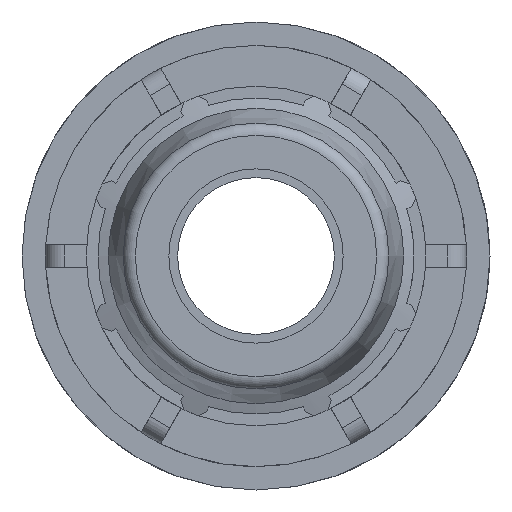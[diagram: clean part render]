
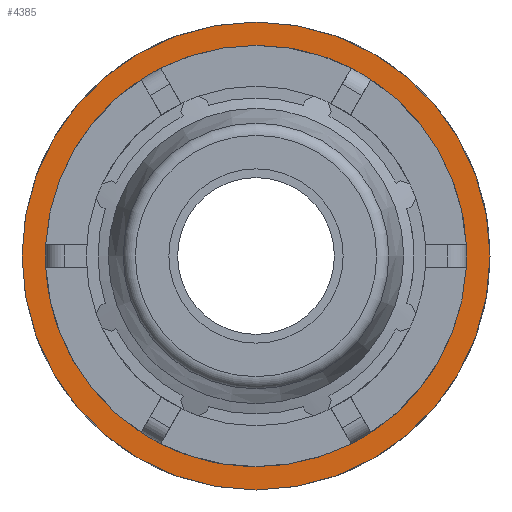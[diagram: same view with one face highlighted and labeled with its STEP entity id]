
A CAD part, left-side view. The second image highlights one B-rep face of the part: STEP entity #4385.
In plain terms, the highlighted planar face has unit normal (-1, 0, 0).
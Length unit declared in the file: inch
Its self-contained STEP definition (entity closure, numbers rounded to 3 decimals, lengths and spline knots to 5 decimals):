
#48=FACE_BOUND('',#578,.T.);
#358=FACE_OUTER_BOUND('',#577,.T.);
#577=EDGE_LOOP('',(#3585,#3586));
#578=EDGE_LOOP('',(#3587,#3588));
#655=CIRCLE('',#4516,2.225);
#656=CIRCLE('',#4517,2.225);
#793=CIRCLE('',#4797,1.78);
#794=CIRCLE('',#4798,1.78);
#1651=VERTEX_POINT('',#6353);
#1652=VERTEX_POINT('',#6355);
#1926=VERTEX_POINT('',#7506);
#1927=VERTEX_POINT('',#7507);
#2104=EDGE_CURVE('',#1651,#1652,#655,.T.);
#2105=EDGE_CURVE('',#1652,#1651,#656,.T.);
#2530=EDGE_CURVE('',#1926,#1927,#793,.T.);
#2531=EDGE_CURVE('',#1927,#1926,#794,.T.);
#3585=ORIENTED_EDGE('',*,*,#2105,.F.);
#3586=ORIENTED_EDGE('',*,*,#2104,.F.);
#3587=ORIENTED_EDGE('',*,*,#2530,.T.);
#3588=ORIENTED_EDGE('',*,*,#2531,.T.);
#3972=PLANE('',#4796);
#4385=ADVANCED_FACE('',(#358,#48),#3972,.T.);
#4516=AXIS2_PLACEMENT_3D('',#6356,#5105,#5106);
#4517=AXIS2_PLACEMENT_3D('',#6357,#5107,#5108);
#4796=AXIS2_PLACEMENT_3D('',#7505,#5889,#5890);
#4797=AXIS2_PLACEMENT_3D('',#7508,#5891,#5892);
#4798=AXIS2_PLACEMENT_3D('',#7509,#5893,#5894);
#5105=DIRECTION('center_axis',(1.,0.,0.));
#5106=DIRECTION('ref_axis',(0.,0.,-1.));
#5107=DIRECTION('center_axis',(1.,0.,0.));
#5108=DIRECTION('ref_axis',(0.,0.,-1.));
#5889=DIRECTION('center_axis',(-1.,0.,0.));
#5890=DIRECTION('ref_axis',(0.,0.,1.));
#5891=DIRECTION('center_axis',(1.,0.,0.));
#5892=DIRECTION('ref_axis',(0.,0.,-1.));
#5893=DIRECTION('center_axis',(1.,0.,0.));
#5894=DIRECTION('ref_axis',(0.,0.,-1.));
#6353=CARTESIAN_POINT('',(2.35116,-2.225,0.));
#6355=CARTESIAN_POINT('',(2.35116,0.,2.225));
#6356=CARTESIAN_POINT('Origin',(2.35116,0.,0.));
#6357=CARTESIAN_POINT('Origin',(2.35116,0.,0.));
#7505=CARTESIAN_POINT('Origin',(2.35116,2.225,0.));
#7506=CARTESIAN_POINT('',(2.35116,1.78,0.));
#7507=CARTESIAN_POINT('',(2.35116,-1.78,0.));
#7508=CARTESIAN_POINT('Origin',(2.35116,0.,0.));
#7509=CARTESIAN_POINT('Origin',(2.35116,0.,0.));
